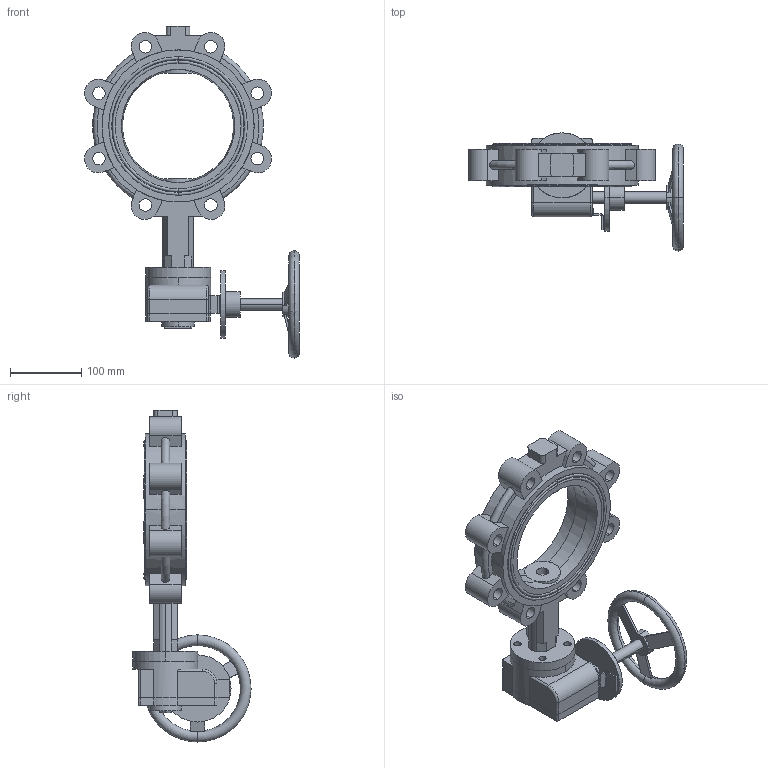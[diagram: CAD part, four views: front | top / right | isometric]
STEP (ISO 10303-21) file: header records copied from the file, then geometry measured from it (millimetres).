
FILE_DESCRIPTION (( 'STEP AP203' ), '1' );
FILE_NAME ('DN150凸耳涡轮头.STEP', '2026-05-15T07:04:06', ( '微软用户' ), ( '微软中国' ), 'SwSTEP 2.0', 'SolidWorks 2024', '' );
FILE_SCHEMA (( 'CONFIG_CONTROL_DESIGN' ));
Length unit declared in the file: millimetre
Products named in the file (5): DN150凸耳涡轮头; 衬胶6寸; DN150凸耳装配; 150凸耳，10.4公斤; 6寸涡轮头
Assembly tree (4 placements, depth 3):
  DN150凸耳涡轮头
    DN150凸耳装配
      150凸耳，10.4公斤
      衬胶6寸
    6寸涡轮头
Bounding box: 300.96 x 165.5 x 465 mm (x, y, z)
Volume: 2305773.2 mm3; surface area: 457038.3 mm2
Topology: 6 solids, 6 shells, 318 faces, 835 edges, 542 vertices
Faces by surface type: plane 163, cylinder 123, torus 20, cone 12
Entity records: 11404 total; most frequent: CARTESIAN_POINT 2803, DIRECTION 1751, ORIENTED_EDGE 1666, EDGE_CURVE 833, AXIS2_PLACEMENT_3D 666, VERTEX_POINT 542, VECTOR 419, LINE 419
